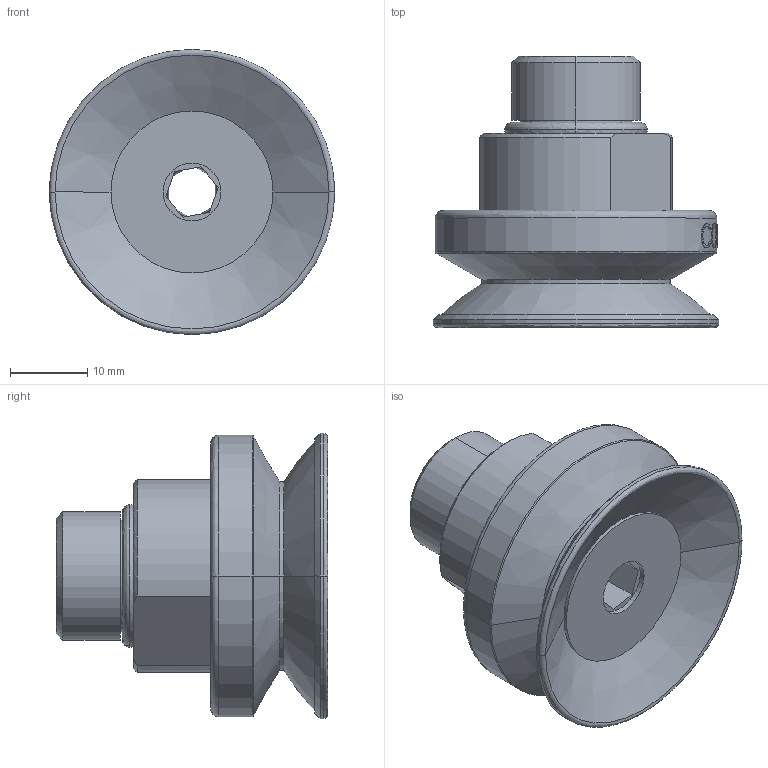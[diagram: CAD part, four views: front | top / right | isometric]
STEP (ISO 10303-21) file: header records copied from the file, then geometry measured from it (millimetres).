
FILE_DESCRIPTION (( 'STEP AP214' ), '1' );
FILE_NAME ('SAF-30-G3-8AG.STEP', '2023-03-07T01:27:57', ( 'Windows User' ), ( 'P R C' ), 'SwSTEP 2.0', 'SolidWorks 2019', '' );
FILE_SCHEMA (( 'AUTOMOTIVE_DESIGN' ));
Length unit declared in the file: millimetre
Products named in the file (1): SAF-30-G3-8AG
Bounding box: 37 x 35.2 x 37 mm (x, y, z)
Volume: 17132.2 mm3; surface area: 8315.8 mm2
Topology: 3 solids, 3 shells, 140 faces, 332 edges, 210 vertices
Faces by surface type: bspline 45, plane 40, cylinder 36, cone 19
Entity records: 15048 total; most frequent: CARTESIAN_POINT 10392, ORIENTED_EDGE 664, DIRECTION 578, EDGE_CURVE 332, AXIS2_PLACEMENT_3D 220, VERTEX_POINT 210, EDGE_LOOP 158, UNCERTAINTY_MEASURE_WITH_UNIT 145
